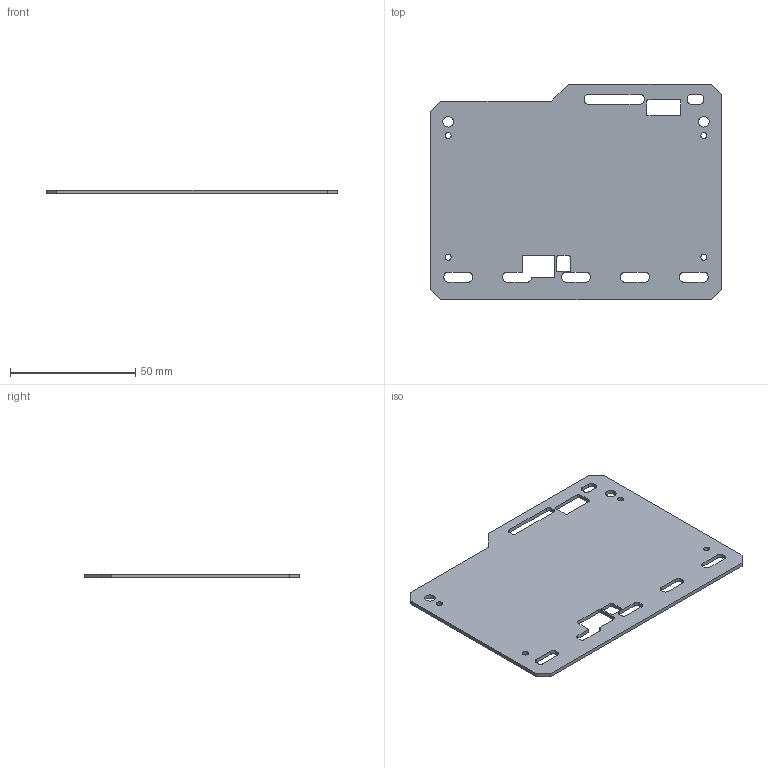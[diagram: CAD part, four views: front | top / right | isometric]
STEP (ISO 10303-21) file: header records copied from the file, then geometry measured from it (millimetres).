
FILE_DESCRIPTION(('Open CASCADE Model'),'2;1');
FILE_NAME('Clear front plate','2026-11-18T13:29:46',('Author'),( 'Open CASCADE'),'Open CASCADE STEP processor 7.8','build123d', 'Unknown');
FILE_SCHEMA(('AUTOMOTIVE_DESIGN { 1 0 10303 214 1 1 1 1 }'));
Length unit declared in the file: millimetre
Products named in the file (1): Clear front plate
Bounding box: 116 x 86 x 1.5 mm (x, y, z)
Volume: 13488.5 mm3; surface area: 19111.8 mm2
Topology: 1 solids, 1 shells, 96 faces, 282 edges, 188 vertices
Faces by surface type: plane 52, cylinder 44
Full cylindrical faces by diameter (mm): 2.4 x4, 4.2 x2
Entity records: 7025 total; most frequent: CARTESIAN_POINT 1751, DIRECTION 888, ORIENTED_EDGE 564, PCURVE 564, DEFINITIONAL_REPRESENTATION 564, LINE 506, VECTOR 506, EDGE_CURVE 282
